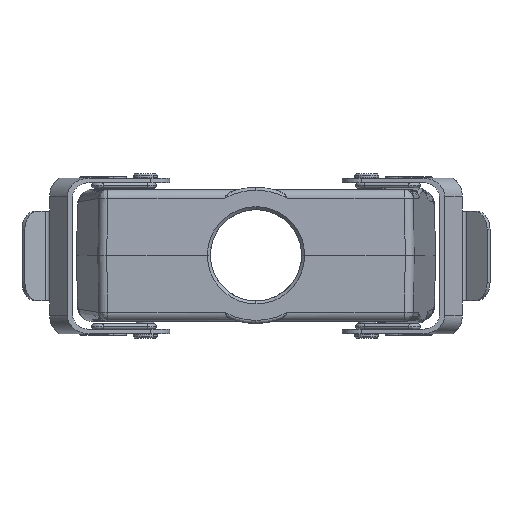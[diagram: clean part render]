
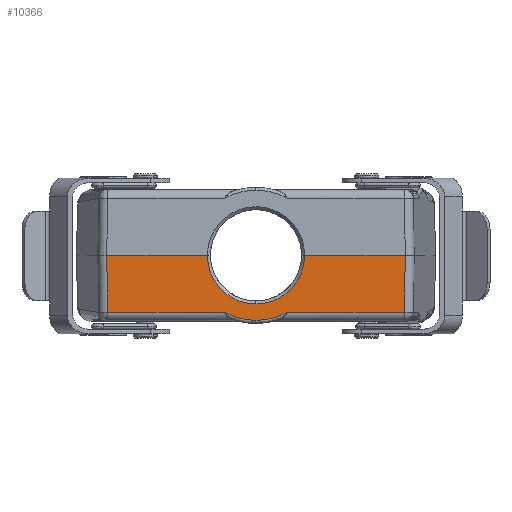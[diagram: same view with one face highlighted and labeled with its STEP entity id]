
A CAD part, top view. The second image highlights one B-rep face of the part: STEP entity #10366.
In plain terms, the highlighted planar face has unit normal (0, -0.018, 1) as drawn and (0, 1, 0.017) by its records, which use the part's own axes.
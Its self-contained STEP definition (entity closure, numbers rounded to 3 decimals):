
#75 = CARTESIAN_POINT ( 'NONE',  ( -0.002, 75.716, 16.267 ) ) ;
#127 = VECTOR ( 'NONE', #5605, 1000. ) ;
#377 = PLANE ( 'NONE',  #1688 ) ;
#768 = VECTOR ( 'NONE', #19870, 1000. ) ;
#831 = CARTESIAN_POINT ( 'NONE',  ( 15.507, 75.909, 5.191 ) ) ;
#1295 = CARTESIAN_POINT ( 'NONE',  ( 7.722, 75.748, 14.426 ) ) ;
#1350 = CARTESIAN_POINT ( 'NONE',  ( -49.909, 76., 0. ) ) ;
#1622 = EDGE_CURVE ( 'NONE', #29965, #32435, #8010, .T. ) ;
#1688 = AXIS2_PLACEMENT_3D ( 'NONE', #7977, #13719, #21487 ) ;
#1809 = VECTOR ( 'NONE', #13480, 1000. ) ;
#2492 = B_SPLINE_CURVE_WITH_KNOTS ( 'NONE', 3,
 ( #75, #21190, #6051, #3404, #5802, #26753, #16474, #3537, #32222, #24582, #8551, #31998 ),
 .UNSPECIFIED., .F., .F.,
 ( 4, 1, 1, 1, 1, 1, 1, 1, 1, 4 ),
 ( 0., 0.002, 0.005, 0.008, 0.011, 0.014, 0.017, 0.02, 0.023, 0.026 ),
 .UNSPECIFIED. ) ;
#3165 = CARTESIAN_POINT ( 'NONE',  ( 16.251, 75.987, 0.725 ) ) ;
#3404 = CARTESIAN_POINT ( 'NONE',  ( -4.871, 75.727, 15.622 ) ) ;
#3537 = CARTESIAN_POINT ( 'NONE',  ( -14.255, 75.86, 8.02 ) ) ;
#3594 = CARTESIAN_POINT ( 'NONE',  ( -8.913, 75.652, 19.942 ) ) ;
#3960 = CARTESIAN_POINT ( 'NONE',  ( 52.5, 76., 0. ) ) ;
#4040 = B_SPLINE_CURVE_WITH_KNOTS ( 'NONE', 3,
 ( #20805, #10008, #23088, #7384, #25707, #18383 ),
 .UNSPECIFIED., .F., .F.,
 ( 4, 2, 4 ),
 ( 0., 0.5, 1. ),
 .UNSPECIFIED. ) ;
#4885 = FACE_OUTER_BOUND ( 'NONE', #19731, .T. ) ;
#5103 = LINE ( 'NONE', #21486, #1809 ) ;
#5605 = DIRECTION ( 'NONE',  ( 1., 0., 0. ) ) ;
#5794 = LINE ( 'NONE', #1350, #16085 ) ;
#5802 = CARTESIAN_POINT ( 'NONE',  ( -7.719, 75.748, 14.428 ) ) ;
#5827 = ORIENTED_EDGE ( 'NONE', *, *, #16017, .T. ) ;
#6051 = CARTESIAN_POINT ( 'NONE',  ( -2.254, 75.718, 16.174 ) ) ;
#6228 = CARTESIAN_POINT ( 'NONE',  ( -1.849, 75.62, 21.766 ) ) ;
#6567 = CARTESIAN_POINT ( 'NONE',  ( -49.622, 75.667, 19.052 ) ) ;
#6596 = CARTESIAN_POINT ( 'NONE',  ( -16.25, 76., 0. ) ) ;
#7089 = ORIENTED_EDGE ( 'NONE', *, *, #9740, .T. ) ;
#7384 = CARTESIAN_POINT ( 'NONE',  ( 7.213, 75.64, 20.619 ) ) ;
#7883 = CARTESIAN_POINT ( 'NONE',  ( -49.909, 76., 0. ) ) ;
#7977 = CARTESIAN_POINT ( 'NONE',  ( 52.5, 76., 0. ) ) ;
#8010 = LINE ( 'NONE', #20551, #8408 ) ;
#8408 = VECTOR ( 'NONE', #30834, 1000. ) ;
#8433 = CARTESIAN_POINT ( 'NONE',  ( 16.25, 76., 0. ) ) ;
#8551 = CARTESIAN_POINT ( 'NONE',  ( -16.251, 75.987, 0.727 ) ) ;
#8728 = CARTESIAN_POINT ( 'NONE',  ( -3.659, 75.624, 21.536 ) ) ;
#9324 = CARTESIAN_POINT ( 'NONE',  ( 4.875, 75.727, 15.621 ) ) ;
#9419 = VERTEX_POINT ( 'NONE', #26802 ) ;
#9740 = EDGE_CURVE ( 'NONE', #12437, #19740, #30301, .T. ) ;
#9958 = ORIENTED_EDGE ( 'NONE', *, *, #29053, .T. ) ;
#10008 = CARTESIAN_POINT ( 'NONE',  ( 1.837, 75.62, 21.767 ) ) ;
#10366 = ADVANCED_FACE ( 'NONE', ( #4885 ), #377, .T. ) ;
#10619 = CARTESIAN_POINT ( 'NONE',  ( 49.622, 75.667, 19.053 ) ) ;
#11452 = VECTOR ( 'NONE', #11906, 1000. ) ;
#11735 = CARTESIAN_POINT ( 'NONE',  ( 0.614, 75.716, 16.267 ) ) ;
#11747 = EDGE_CURVE ( 'NONE', #9419, #29095, #2492, .T. ) ;
#11906 = DIRECTION ( 'NONE',  ( 1., 0., 0. ) ) ;
#12437 = VERTEX_POINT ( 'NONE', #25163 ) ;
#13250 = VERTEX_POINT ( 'NONE', #6567 ) ;
#13480 = DIRECTION ( 'NONE',  ( 0.015, 0.017, -1. ) ) ;
#13719 = DIRECTION ( 'NONE',  ( 0., 1., 0.017 ) ) ;
#13723 = CARTESIAN_POINT ( 'NONE',  ( 16.135, 75.957, 2.476 ) ) ;
#13782 = VERTEX_POINT ( 'NONE', #33728 ) ;
#14322 = EDGE_CURVE ( 'NONE', #26651, #13250, #5794, .T. ) ;
#16017 = EDGE_CURVE ( 'NONE', #32435, #9419, #17139, .T. ) ;
#16085 = VECTOR ( 'NONE', #30098, 1000. ) ;
#16474 = CARTESIAN_POINT ( 'NONE',  ( -12.495, 75.816, 10.558 ) ) ;
#16794 = CARTESIAN_POINT ( 'NONE',  ( 12.499, 75.816, 10.554 ) ) ;
#17035 = CARTESIAN_POINT ( 'NONE',  ( 2.255, 75.718, 16.174 ) ) ;
#17099 = CARTESIAN_POINT ( 'NONE',  ( 52.5, 75.667, 19.052 ) ) ;
#17139 = B_SPLINE_CURVE_WITH_KNOTS ( 'NONE', 3,
 ( #8433, #3165, #13723, #831, #25008, #16794, #27204, #1295, #9324, #17035, #11735, #27655 ),
 .UNSPECIFIED., .F., .F.,
 ( 4, 1, 1, 1, 1, 1, 1, 1, 1, 4 ),
 ( 0., 0.002, 0.005, 0.008, 0.011, 0.015, 0.018, 0.021, 0.024, 0.026 ),
 .UNSPECIFIED. ) ;
#18383 = CARTESIAN_POINT ( 'NONE',  ( 10.523, 75.667, 19.052 ) ) ;
#18834 = CARTESIAN_POINT ( 'NONE',  ( 49.909, 76., 0. ) ) ;
#19731 = EDGE_LOOP ( 'NONE', ( #32642, #5827, #26117, #30861, #28522, #9958, #23614, #31152, #7089, #30450 ) ) ;
#19740 = VERTEX_POINT ( 'NONE', #10619 ) ;
#19870 = DIRECTION ( 'NONE',  ( -1., 0., 0. ) ) ;
#20551 = CARTESIAN_POINT ( 'NONE',  ( 52.5, 76., 0. ) ) ;
#20805 = CARTESIAN_POINT ( 'NONE',  ( -0.007, 75.62, 21.767 ) ) ;
#20964 = EDGE_CURVE ( 'NONE', #19740, #29965, #5103, .T. ) ;
#21190 = CARTESIAN_POINT ( 'NONE',  ( -0.616, 75.716, 16.267 ) ) ;
#21296 = CARTESIAN_POINT ( 'NONE',  ( 52.5, 75.667, 19.052 ) ) ;
#21486 = CARTESIAN_POINT ( 'NONE',  ( 49.622, 75.667, 19.052 ) ) ;
#21487 = DIRECTION ( 'NONE',  ( 0., -0.017, 1. ) ) ;
#21665 = CARTESIAN_POINT ( 'NONE',  ( -7.217, 75.64, 20.617 ) ) ;
#22520 = LINE ( 'NONE', #3960, #768 ) ;
#23088 = CARTESIAN_POINT ( 'NONE',  ( 3.649, 75.624, 21.538 ) ) ;
#23614 = ORIENTED_EDGE ( 'NONE', *, *, #26172, .T. ) ;
#24582 = CARTESIAN_POINT ( 'NONE',  ( -16.135, 75.957, 2.48 ) ) ;
#25008 = CARTESIAN_POINT ( 'NONE',  ( 14.257, 75.86, 8.015 ) ) ;
#25119 = LINE ( 'NONE', #21296, #127 ) ;
#25163 = CARTESIAN_POINT ( 'NONE',  ( 10.523, 75.667, 19.052 ) ) ;
#25707 = CARTESIAN_POINT ( 'NONE',  ( 8.911, 75.652, 19.944 ) ) ;
#26046 = EDGE_CURVE ( 'NONE', #27778, #12437, #4040, .T. ) ;
#26117 = ORIENTED_EDGE ( 'NONE', *, *, #11747, .T. ) ;
#26172 = EDGE_CURVE ( 'NONE', #13782, #27778, #27275, .T. ) ;
#26651 = VERTEX_POINT ( 'NONE', #7883 ) ;
#26701 = CARTESIAN_POINT ( 'NONE',  ( -10.523, 75.667, 19.052 ) ) ;
#26753 = CARTESIAN_POINT ( 'NONE',  ( -10.291, 75.778, 12.719 ) ) ;
#26802 = CARTESIAN_POINT ( 'NONE',  ( -0.002, 75.716, 16.267 ) ) ;
#27204 = CARTESIAN_POINT ( 'NONE',  ( 10.294, 75.778, 12.717 ) ) ;
#27275 = B_SPLINE_CURVE_WITH_KNOTS ( 'NONE', 3,
 ( #26701, #3594, #21665, #8728, #6228, #29224 ),
 .UNSPECIFIED., .F., .F.,
 ( 4, 2, 4 ),
 ( 0., 0.5, 1. ),
 .UNSPECIFIED. ) ;
#27655 = CARTESIAN_POINT ( 'NONE',  ( -0.002, 75.716, 16.267 ) ) ;
#27778 = VERTEX_POINT ( 'NONE', #30458 ) ;
#28522 = ORIENTED_EDGE ( 'NONE', *, *, #14322, .T. ) ;
#28589 = EDGE_CURVE ( 'NONE', #29095, #26651, #22520, .T. ) ;
#29053 = EDGE_CURVE ( 'NONE', #13250, #13782, #25119, .T. ) ;
#29095 = VERTEX_POINT ( 'NONE', #6596 ) ;
#29224 = CARTESIAN_POINT ( 'NONE',  ( -0.007, 75.62, 21.767 ) ) ;
#29965 = VERTEX_POINT ( 'NONE', #18834 ) ;
#30098 = DIRECTION ( 'NONE',  ( 0.015, -0.017, 1. ) ) ;
#30301 = LINE ( 'NONE', #17099, #11452 ) ;
#30450 = ORIENTED_EDGE ( 'NONE', *, *, #20964, .T. ) ;
#30458 = CARTESIAN_POINT ( 'NONE',  ( -0.007, 75.62, 21.767 ) ) ;
#30834 = DIRECTION ( 'NONE',  ( -1., 0., 0. ) ) ;
#30861 = ORIENTED_EDGE ( 'NONE', *, *, #28589, .T. ) ;
#31152 = ORIENTED_EDGE ( 'NONE', *, *, #26046, .T. ) ;
#31998 = CARTESIAN_POINT ( 'NONE',  ( -16.25, 76., 0. ) ) ;
#32222 = CARTESIAN_POINT ( 'NONE',  ( -15.505, 75.909, 5.196 ) ) ;
#32435 = VERTEX_POINT ( 'NONE', #33438 ) ;
#32642 = ORIENTED_EDGE ( 'NONE', *, *, #1622, .T. ) ;
#33438 = CARTESIAN_POINT ( 'NONE',  ( 16.25, 76., 0. ) ) ;
#33728 = CARTESIAN_POINT ( 'NONE',  ( -10.523, 75.667, 19.052 ) ) ;
